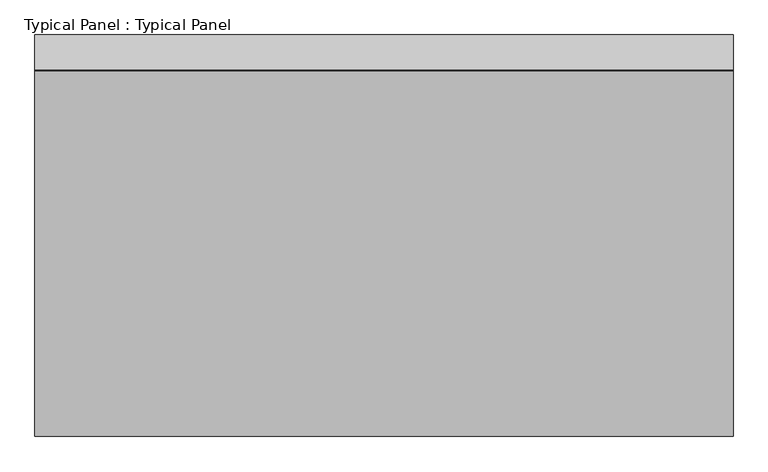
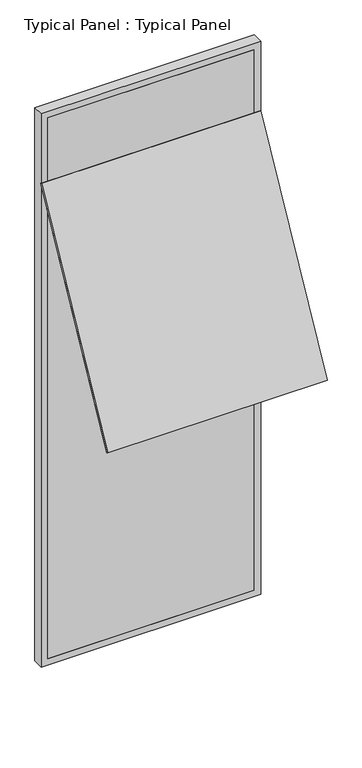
"""IFC4 building model written with IfcOpenShell, lengths in millimetres: plate geometry, Typical Panel : Typical Panel."""

from ifc_helpers import new_model, si_unit, frame, origin, place, context, project, spatial, polyline, outline, extrude, source, transform, mapped, element, save


def typical_panel_typical_panel_f5345e9d(model_context):
    return source(origin(), model_context, "Body", "SweptSolid", [
        extrude(outline(polyline([(0.0, -10.0), (0.0, 0.0), (1500.0, 0.0), (1500.0, -10.0), (0.0, -10.0)])), frame((750.0, -789.0175099, 2025.4775199), z_axis=(0.0, 0.46947156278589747, 0.8829475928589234), x_axis=(-1.0, 0.0, 0.0)), (0.0, 0.0, 1.0), 1670.0),
        extrude(outline(polyline([(0.0, -750.0), (0.0, 750.0), (4000.0, 750.0), (4000.0, -750.0), (0.0, -750.0)]), holes=[polyline([(45.0, 705.0), (45.0, -705.0), (3955.0, -705.0), (3955.0, 705.0), (45.0, 705.0)])]), frame((0.0, -1.5797986, 0.0), z_axis=(0.0, 1.0, 0.0), x_axis=(0.0, 0.0, 1.0)), (0.0, 0.0, 1.0), 75.0),
        extrude(outline(polyline([(705.0, -1.5797986), (-705.0, -1.5797986), (-705.0, 13.4202014), (705.0, 13.4202014), (705.0, -1.5797986)])), frame((0.0, 0.0, 45.0), z_axis=(0.0, 0.0, 1.0), x_axis=(1.0, 0.0, 0.0)), (0.0, 0.0, 1.0), 3910.0),
    ])


if __name__ == "__main__":
    model = new_model("IFC4")
    model_context = context("Model", 3, world=origin())
    ifc_project = project(units=[si_unit("LENGTHUNIT", "METRE", prefix="MILLI")], contexts=[model_context])
    site = spatial("IfcSite", under=ifc_project)
    building = spatial("IfcBuilding", under=site)
    placement = place(None, origin())
    typical_panel_typical_panel_shape = typical_panel_typical_panel_f5345e9d(model_context)
    element("IfcPlate", 1, ObjectType="Typical Panel : Typical Panel", at=placement, inside=building, context=model_context, shape_type="MappedRepresentation", body=[
        mapped(typical_panel_typical_panel_shape, transform((0.0, 0.0, 0.0), x_axis=(1.0, 0.0, 0.0), y_axis=(0.0, 1.0, 0.0), z_axis=(0.0, 0.0, 1.0))),
    ])
    save(model, "model.ifc")
